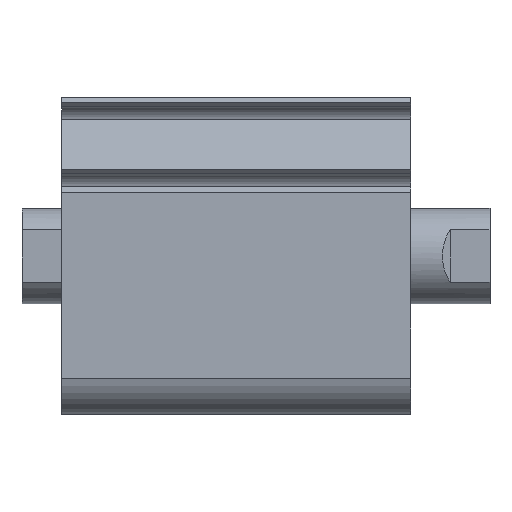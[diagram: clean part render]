
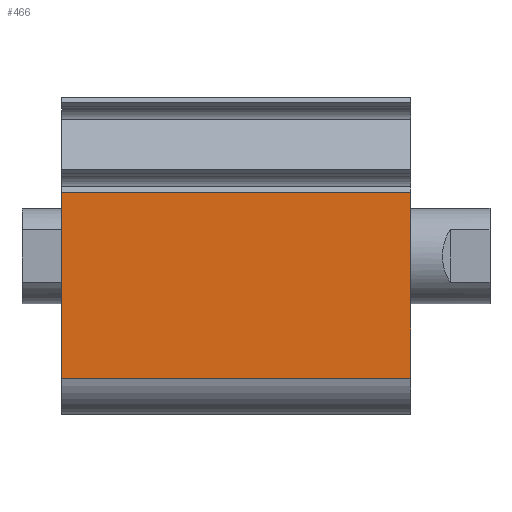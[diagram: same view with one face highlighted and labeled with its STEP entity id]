
A CAD part, top view. The second image highlights one B-rep face of the part: STEP entity #466.
In plain terms, the highlighted planar face has unit normal (0, 0, 1).
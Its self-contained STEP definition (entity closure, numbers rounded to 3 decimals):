
#109 = CARTESIAN_POINT ( 'NONE',  ( 44., -15.44, 20. ) ) ;
#133 = EDGE_CURVE ( 'NONE', #1097, #409, #2894, .T. ) ;
#176 = CARTESIAN_POINT ( 'NONE',  ( 44., 8.001, 20. ) ) ;
#382 = EDGE_CURVE ( 'NONE', #409, #3008, #3286, .T. ) ;
#397 = VECTOR ( 'NONE', #2577, 1000. ) ;
#409 = VERTEX_POINT ( 'NONE', #109 ) ;
#466 = ADVANCED_FACE ( 'NONE', ( #1440 ), #1217, .F. ) ;
#488 = CARTESIAN_POINT ( 'NONE',  ( 0., -15.44, 20. ) ) ;
#489 = LINE ( 'NONE', #2522, #397 ) ;
#504 = CARTESIAN_POINT ( 'NONE',  ( 44., 8.001, 20. ) ) ;
#598 = AXIS2_PLACEMENT_3D ( 'NONE', #3045, #2195, #3247 ) ;
#705 = CARTESIAN_POINT ( 'NONE',  ( 44., -15.44, 20. ) ) ;
#717 = CARTESIAN_POINT ( 'NONE',  ( 0., 8.001, 20. ) ) ;
#786 = LINE ( 'NONE', #504, #3015 ) ;
#881 = ORIENTED_EDGE ( 'NONE', *, *, #133, .F. ) ;
#1097 = VERTEX_POINT ( 'NONE', #176 ) ;
#1217 = PLANE ( 'NONE',  #598 ) ;
#1417 = ORIENTED_EDGE ( 'NONE', *, *, #1682, .T. ) ;
#1440 = FACE_OUTER_BOUND ( 'NONE', #2381, .T. ) ;
#1682 = EDGE_CURVE ( 'NONE', #2235, #3008, #489, .T. ) ;
#1781 = VECTOR ( 'NONE', #2470, 1000. ) ;
#1864 = DIRECTION ( 'NONE',  ( -1., 0., 0. ) ) ;
#2195 = DIRECTION ( 'NONE',  ( 0., 0., -1. ) ) ;
#2235 = VERTEX_POINT ( 'NONE', #717 ) ;
#2381 = EDGE_LOOP ( 'NONE', ( #1417, #2806, #881, #2918 ) ) ;
#2470 = DIRECTION ( 'NONE',  ( -1., 0., 0. ) ) ;
#2522 = CARTESIAN_POINT ( 'NONE',  ( 0., 8.001, 20. ) ) ;
#2577 = DIRECTION ( 'NONE',  ( 0., -1., 0. ) ) ;
#2806 = ORIENTED_EDGE ( 'NONE', *, *, #382, .F. ) ;
#2894 = LINE ( 'NONE', #3104, #3401 ) ;
#2918 = ORIENTED_EDGE ( 'NONE', *, *, #3124, .T. ) ;
#3008 = VERTEX_POINT ( 'NONE', #488 ) ;
#3015 = VECTOR ( 'NONE', #1864, 1000. ) ;
#3045 = CARTESIAN_POINT ( 'NONE',  ( 44., 8.001, 20. ) ) ;
#3104 = CARTESIAN_POINT ( 'NONE',  ( 44., 8.001, 20. ) ) ;
#3124 = EDGE_CURVE ( 'NONE', #1097, #2235, #786, .T. ) ;
#3247 = DIRECTION ( 'NONE',  ( 0., -1., 0. ) ) ;
#3286 = LINE ( 'NONE', #705, #1781 ) ;
#3364 = DIRECTION ( 'NONE',  ( 0., -1., 0. ) ) ;
#3401 = VECTOR ( 'NONE', #3364, 1000. ) ;
